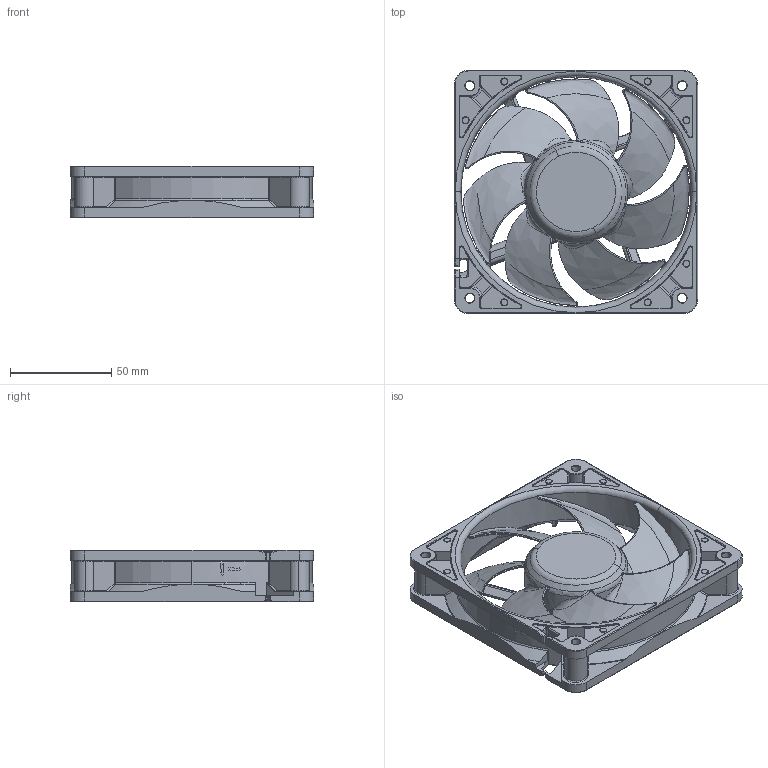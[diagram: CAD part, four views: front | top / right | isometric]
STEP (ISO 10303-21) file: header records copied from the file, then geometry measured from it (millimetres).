
FILE_DESCRIPTION (( 'STEP AP203' ), '1' );
FILE_NAME ('RIBBED_120X25WPA.STEP', '2025-01-15T06:52:39', ( '' ), ( '' ), 'SwSTEP 2.0', 'SolidWorks 2022', '' );
FILE_SCHEMA (( 'CONFIG_CONTROL_DESIGN' ));
Length unit declared in the file: millimetre
Products named in the file (1): RIBBED_120X25WPA
Bounding box: 120 x 120 x 25.4 mm (x, y, z)
Volume: 114669.1 mm3; surface area: 64901.6 mm2
Topology: 2 solids, 3 shells, 1218 faces, 2978 edges, 1739 vertices
Faces by surface type: bspline 361, cylinder 346, plane 210, torus 205, cone 72, sphere 24
Entity records: 60189 total; most frequent: CARTESIAN_POINT 34748, ORIENTED_EDGE 5870, DIRECTION 4661, EDGE_CURVE 2935, AXIS2_PLACEMENT_3D 1949, VERTEX_POINT 1739, EDGE_LOOP 1250, ADVANCED_FACE 1218
